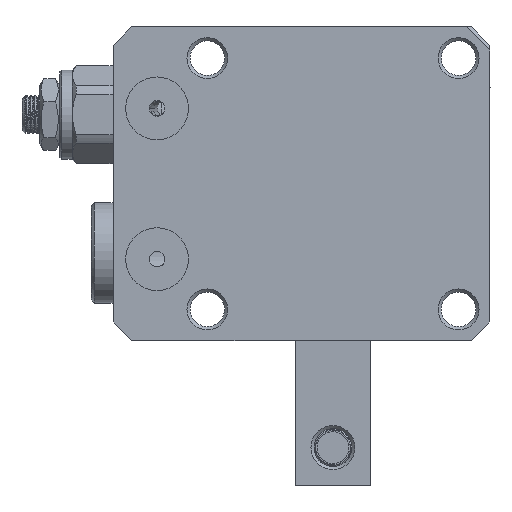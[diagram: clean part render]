
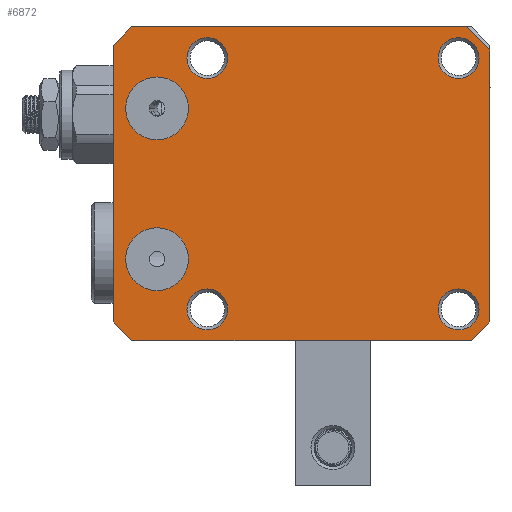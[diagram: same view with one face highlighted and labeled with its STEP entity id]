
A CAD part, front view. The second image highlights one B-rep face of the part: STEP entity #6872.
In plain terms, the highlighted planar face has unit normal (0, -1, 0).
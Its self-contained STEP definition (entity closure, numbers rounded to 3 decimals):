
#236=PLANE('',#7563);
#356=FACE_BOUND('',#1039,.T.);
#357=FACE_BOUND('',#1040,.T.);
#358=FACE_BOUND('',#1041,.T.);
#359=FACE_BOUND('',#1042,.T.);
#360=FACE_BOUND('',#1043,.T.);
#361=FACE_BOUND('',#1044,.T.);
#612=FACE_OUTER_BOUND('',#1038,.T.);
#1038=EDGE_LOOP('',(#5083,#5084,#5085,#5086,#5087,#5088,#5089,#5090));
#1039=EDGE_LOOP('',(#5091));
#1040=EDGE_LOOP('',(#5092));
#1041=EDGE_LOOP('',(#5093));
#1042=EDGE_LOOP('',(#5094));
#1043=EDGE_LOOP('',(#5095));
#1044=EDGE_LOOP('',(#5096));
#1497=LINE('',#10883,#2008);
#1538=LINE('',#11007,#2049);
#1539=LINE('',#11010,#2050);
#1559=LINE('',#11218,#2070);
#1566=LINE('',#11231,#2077);
#1567=LINE('',#11233,#2078);
#1577=LINE('',#11457,#2088);
#1586=LINE('',#11474,#2097);
#2008=VECTOR('',#8477,1000.);
#2049=VECTOR('',#8544,1000.);
#2050=VECTOR('',#8547,1000.);
#2070=VECTOR('',#8575,1000.);
#2077=VECTOR('',#8584,1000.);
#2078=VECTOR('',#8587,1000.);
#2088=VECTOR('',#8617,1000.);
#2097=VECTOR('',#8630,1000.);
#2491=CIRCLE('',#7443,5.);
#2493=CIRCLE('',#7446,5.);
#2496=CIRCLE('',#7450,3.25);
#2499=CIRCLE('',#7454,3.25);
#2502=CIRCLE('',#7458,3.25);
#2505=CIRCLE('',#7462,3.25);
#2921=VERTEX_POINT('',#10585);
#2923=VERTEX_POINT('',#10591);
#2926=VERTEX_POINT('',#10599);
#2929=VERTEX_POINT('',#10607);
#2932=VERTEX_POINT('',#10615);
#2935=VERTEX_POINT('',#10623);
#2978=VERTEX_POINT('',#10880);
#2979=VERTEX_POINT('',#10882);
#3011=VERTEX_POINT('',#11005);
#3012=VERTEX_POINT('',#11009);
#3028=VERTEX_POINT('',#11215);
#3029=VERTEX_POINT('',#11217);
#3034=VERTEX_POINT('',#11229);
#3040=VERTEX_POINT('',#11456);
#3592=EDGE_CURVE('',#2921,#2921,#2491,.T.);
#3595=EDGE_CURVE('',#2923,#2923,#2493,.T.);
#3599=EDGE_CURVE('',#2926,#2926,#2496,.T.);
#3603=EDGE_CURVE('',#2929,#2929,#2499,.T.);
#3607=EDGE_CURVE('',#2932,#2932,#2502,.T.);
#3611=EDGE_CURVE('',#2935,#2935,#2505,.T.);
#3671=EDGE_CURVE('',#2979,#2978,#1497,.T.);
#3717=EDGE_CURVE('',#2978,#3011,#1538,.T.);
#3718=EDGE_CURVE('',#2979,#3012,#1539,.T.);
#3742=EDGE_CURVE('',#3028,#3029,#1559,.T.);
#3749=EDGE_CURVE('',#3034,#3028,#1566,.T.);
#3750=EDGE_CURVE('',#3012,#3034,#1567,.T.);
#3765=EDGE_CURVE('',#3040,#3011,#1577,.T.);
#3774=EDGE_CURVE('',#3029,#3040,#1586,.T.);
#5083=ORIENTED_EDGE('',*,*,#3717,.T.);
#5084=ORIENTED_EDGE('',*,*,#3765,.F.);
#5085=ORIENTED_EDGE('',*,*,#3774,.F.);
#5086=ORIENTED_EDGE('',*,*,#3742,.F.);
#5087=ORIENTED_EDGE('',*,*,#3749,.F.);
#5088=ORIENTED_EDGE('',*,*,#3750,.F.);
#5089=ORIENTED_EDGE('',*,*,#3718,.F.);
#5090=ORIENTED_EDGE('',*,*,#3671,.T.);
#5091=ORIENTED_EDGE('',*,*,#3592,.F.);
#5092=ORIENTED_EDGE('',*,*,#3595,.F.);
#5093=ORIENTED_EDGE('',*,*,#3599,.F.);
#5094=ORIENTED_EDGE('',*,*,#3603,.F.);
#5095=ORIENTED_EDGE('',*,*,#3607,.F.);
#5096=ORIENTED_EDGE('',*,*,#3611,.F.);
#6872=ADVANCED_FACE('',(#612,#356,#357,#358,#359,#360,#361),#236,.T.);
#7443=AXIS2_PLACEMENT_3D('',#10587,#8325,#8326);
#7446=AXIS2_PLACEMENT_3D('',#10593,#8332,#8333);
#7450=AXIS2_PLACEMENT_3D('',#10601,#8341,#8342);
#7454=AXIS2_PLACEMENT_3D('',#10609,#8350,#8351);
#7458=AXIS2_PLACEMENT_3D('',#10617,#8359,#8360);
#7462=AXIS2_PLACEMENT_3D('',#10625,#8368,#8369);
#7563=AXIS2_PLACEMENT_3D('',#11988,#8717,#8718);
#8325=DIRECTION('center_axis',(0.,-1.,0.));
#8326=DIRECTION('ref_axis',(0.,0.,-1.));
#8332=DIRECTION('center_axis',(0.,-1.,0.));
#8333=DIRECTION('ref_axis',(0.,0.,-1.));
#8341=DIRECTION('center_axis',(0.,-1.,0.));
#8342=DIRECTION('ref_axis',(1.,0.,0.));
#8350=DIRECTION('center_axis',(0.,-1.,0.));
#8351=DIRECTION('ref_axis',(0.,0.,-1.));
#8359=DIRECTION('center_axis',(0.,-1.,0.));
#8360=DIRECTION('ref_axis',(0.,0.,
-1.));
#8368=DIRECTION('center_axis',(0.,-1.,0.));
#8369=DIRECTION('ref_axis',(1.,0.,0.));
#8477=DIRECTION('',(1.,0.,0.));
#8544=DIRECTION('',(0.707,0.,0.707));
#8547=DIRECTION('',(-0.707,0.,0.707));
#8575=DIRECTION('',(1.,0.,0.));
#8584=DIRECTION('',(0.707,0.,0.707));
#8587=DIRECTION('',(0.,0.,1.));
#8617=DIRECTION('',(0.,0.,-1.));
#8630=DIRECTION('',(0.707,0.,-0.707));
#8717=DIRECTION('center_axis',(0.,-1.,0.));
#8718=DIRECTION('ref_axis',(0.,0.,-1.));
#10585=CARTESIAN_POINT('',(403.833,54.859,-7.));
#10587=CARTESIAN_POINT('Origin',(403.833,54.859,-12.));
#10591=CARTESIAN_POINT('',(403.833,54.859,17.));
#10593=CARTESIAN_POINT('Origin',(403.833,54.859,12.));
#10599=CARTESIAN_POINT('',(408.583,54.859,-20.));
#10601=CARTESIAN_POINT('Origin',(411.833,54.859,-20.));
#10607=CARTESIAN_POINT('',(451.833,54.859,-16.75));
#10609=CARTESIAN_POINT('Origin',(451.833,54.859,-20.));
#10615=CARTESIAN_POINT('',(451.833,54.859,23.25));
#10617=CARTESIAN_POINT('Origin',(451.833,54.859,20.));
#10623=CARTESIAN_POINT('',(408.583,54.859,20.));
#10625=CARTESIAN_POINT('Origin',(411.833,54.859,20.));
#10880=CARTESIAN_POINT('',(453.833,54.859,-25.));
#10882=CARTESIAN_POINT('',(399.833,54.859,-25.));
#10883=CARTESIAN_POINT('',(399.833,54.859,-25.));
#11005=CARTESIAN_POINT('',(456.833,54.859,-22.));
#11007=CARTESIAN_POINT('',(453.833,54.859,-25.));
#11009=CARTESIAN_POINT('',(396.833,54.859,-22.));
#11010=CARTESIAN_POINT('',(399.833,54.859,-25.));
#11215=CARTESIAN_POINT('',(399.833,54.859,25.));
#11217=CARTESIAN_POINT('',(453.126,54.859,25.));
#11218=CARTESIAN_POINT('',(456.833,54.859,25.));
#11229=CARTESIAN_POINT('',(396.833,54.859,22.));
#11231=CARTESIAN_POINT('',(396.833,54.859,22.));
#11233=CARTESIAN_POINT('',(396.833,54.859,-25.));
#11456=CARTESIAN_POINT('',(456.833,54.859,21.293));
#11457=CARTESIAN_POINT('',(456.833,54.859,-25.));
#11474=CARTESIAN_POINT('',(453.126,54.859,25.));
#11988=CARTESIAN_POINT('Origin',(431.833,54.859,0.));
